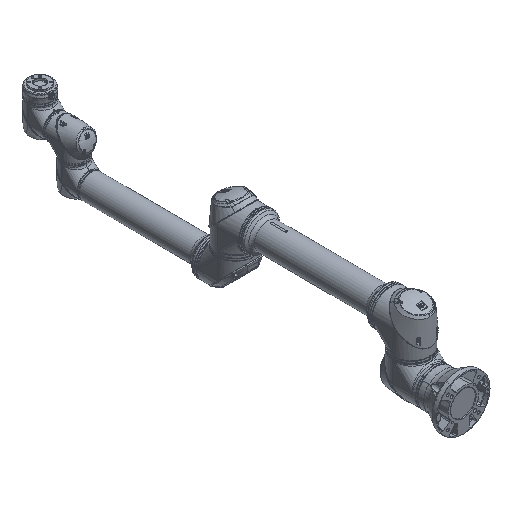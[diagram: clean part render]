
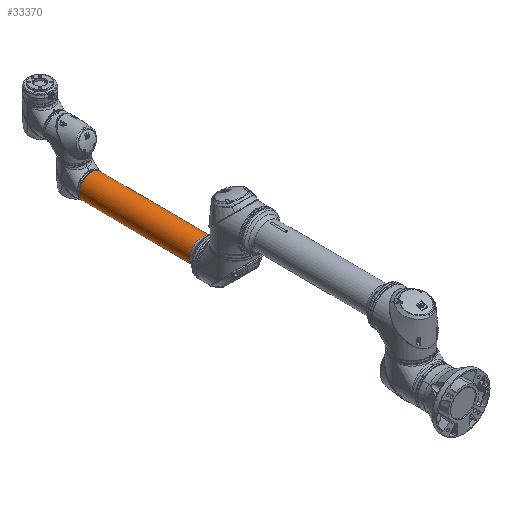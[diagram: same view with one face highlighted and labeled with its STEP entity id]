
A CAD part, isometric view. The second image highlights one B-rep face of the part: STEP entity #33370.
In plain terms, the highlighted cylindrical face has radius 39 mm (diameter 78 mm), a full revolution.
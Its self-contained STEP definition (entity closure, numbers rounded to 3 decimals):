
#1362=CYLINDRICAL_SURFACE('',#36061,39.);
#4372=LINE('',#169699,#5790);
#5790=VECTOR('',#40090,39.);
#7742=FACE_OUTER_BOUND('',#9815,.T.);
#9815=EDGE_LOOP('',(#24643,#24644,#24645,#24646,#24647));
#11679=CIRCLE('',#36059,39.);
#11681=CIRCLE('',#36062,39.);
#11682=CIRCLE('',#36063,39.);
#13627=VERTEX_POINT('',#169691);
#13629=VERTEX_POINT('',#169696);
#13630=VERTEX_POINT('',#169697);
#17567=EDGE_CURVE('',#13627,#13627,#11679,.T.);
#17569=EDGE_CURVE('',#13629,#13630,#11681,.T.);
#17570=EDGE_CURVE('',#13630,#13627,#4372,.T.);
#17571=EDGE_CURVE('',#13630,#13629,#11682,.T.);
#24643=ORIENTED_EDGE('',*,*,#17569,.T.);
#24644=ORIENTED_EDGE('',*,*,#17570,.T.);
#24645=ORIENTED_EDGE('',*,*,#17567,.F.);
#24646=ORIENTED_EDGE('',*,*,#17570,.F.);
#24647=ORIENTED_EDGE('',*,*,#17571,.T.);
#33370=ADVANCED_FACE('',(#7742),#1362,.T.);
#36059=AXIS2_PLACEMENT_3D('',#169692,#40082,#40083);
#36061=AXIS2_PLACEMENT_3D('',#169695,#40086,#40087);
#36062=AXIS2_PLACEMENT_3D('',#169698,#40088,#40089);
#36063=AXIS2_PLACEMENT_3D('',#169700,#40091,#40092);
#40082=DIRECTION('center_axis',(0.,1.,0.));
#40083=DIRECTION('ref_axis',(-1.,0.,0.009));
#40086=DIRECTION('center_axis',(0.,-1.,0.));
#40087=DIRECTION('ref_axis',(-1.,0.,0.009));
#40088=DIRECTION('center_axis',(0.,1.,0.));
#40089=DIRECTION('ref_axis',(-1.,0.,0.009));
#40090=DIRECTION('',(0.,1.,0.));
#40091=DIRECTION('center_axis',(0.,1.,0.));
#40092=DIRECTION('ref_axis',(-1.,0.,0.009));
#169691=CARTESIAN_POINT('',(37.499,-11.,-0.34));
#169692=CARTESIAN_POINT('Origin',(-1.5,-11.,0.));
#169695=CARTESIAN_POINT('Origin',(-1.5,0.,
0.));
#169696=CARTESIAN_POINT('',(-40.5,-370.419,0.));
#169697=CARTESIAN_POINT('',(37.499,-370.419,-0.34));
#169698=CARTESIAN_POINT('Origin',(-1.5,-370.419,0.));
#169699=CARTESIAN_POINT('',(37.499,0.,-0.34));
#169700=CARTESIAN_POINT('Origin',(-1.5,-370.419,0.));
